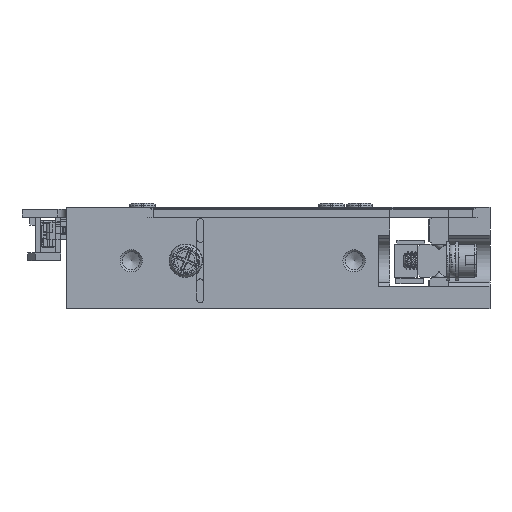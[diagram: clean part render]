
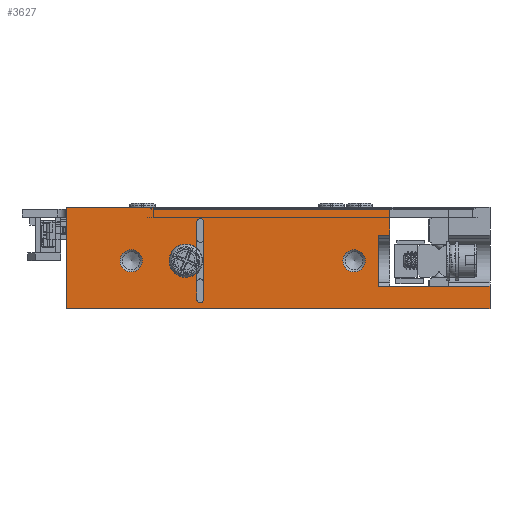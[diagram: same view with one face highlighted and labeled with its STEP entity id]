
A CAD part, left-side view. The second image highlights one B-rep face of the part: STEP entity #3627.
In plain terms, the highlighted planar face has unit normal (-1, 0, 0).
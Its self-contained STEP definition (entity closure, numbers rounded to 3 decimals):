
#995=PLANE('',#56140);
#3247=FACE_BOUND('',#9424,.T.);
#3248=FACE_BOUND('',#9425,.T.);
#3249=FACE_BOUND('',#9426,.T.);
#3250=FACE_BOUND('',#9427,.T.);
#3627=ADVANCED_FACE('',(#3247,#3248,#3249,#3250),#995,.F.);
#9424=EDGE_LOOP('',(#26484));
#9425=EDGE_LOOP('',(#26485));
#9426=EDGE_LOOP('',(#26486,#26487,#26488,#26489,#26490,#26491));
#9427=EDGE_LOOP('',(#26492,#26493,#26494,#26495,#26496,#26497,#26498,#26499,
#26500,#26501,#26502,#26503));
#12376=LINE('',#74307,#19319);
#12377=LINE('',#74312,#19320);
#12378=LINE('',#74316,#19321);
#12379=LINE('',#74319,#19322);
#12380=LINE('',#74322,#19323);
#12381=LINE('',#74324,#19324);
#12382=LINE('',#74326,#19325);
#12383=LINE('',#74328,#19326);
#12384=LINE('',#74330,#19327);
#12385=LINE('',#74332,#19328);
#12386=LINE('',#74334,#19329);
#12387=LINE('',#74336,#19330);
#12388=LINE('',#74338,#19331);
#12389=LINE('',#74340,#19332);
#12390=LINE('',#74342,#19333);
#19319=VECTOR('',#60049,1.);
#19320=VECTOR('',#60052,1.);
#19321=VECTOR('',#60055,1.);
#19322=VECTOR('',#60058,1.);
#19323=VECTOR('',#60059,1.);
#19324=VECTOR('',#60060,1.);
#19325=VECTOR('',#60061,1.);
#19326=VECTOR('',#60062,1.);
#19327=VECTOR('',#60063,1.);
#19328=VECTOR('',#60064,1.);
#19329=VECTOR('',#60065,1.);
#19330=VECTOR('',#60066,1.);
#19331=VECTOR('',#60067,1.);
#19332=VECTOR('',#60068,1.);
#19333=VECTOR('',#60069,1.);
#26484=ORIENTED_EDGE('',*,*,#47348,.T.);
#26485=ORIENTED_EDGE('',*,*,#47349,.T.);
#26486=ORIENTED_EDGE('',*,*,#47350,.F.);
#26487=ORIENTED_EDGE('',*,*,#47351,.T.);
#26488=ORIENTED_EDGE('',*,*,#47352,.F.);
#26489=ORIENTED_EDGE('',*,*,#47353,.F.);
#26490=ORIENTED_EDGE('',*,*,#47354,.F.);
#26491=ORIENTED_EDGE('',*,*,#47355,.F.);
#26492=ORIENTED_EDGE('',*,*,#47356,.F.);
#26493=ORIENTED_EDGE('',*,*,#47357,.T.);
#26494=ORIENTED_EDGE('',*,*,#47358,.F.);
#26495=ORIENTED_EDGE('',*,*,#47359,.F.);
#26496=ORIENTED_EDGE('',*,*,#47360,.T.);
#26497=ORIENTED_EDGE('',*,*,#47361,.T.);
#26498=ORIENTED_EDGE('',*,*,#47362,.T.);
#26499=ORIENTED_EDGE('',*,*,#47363,.T.);
#26500=ORIENTED_EDGE('',*,*,#47364,.T.);
#26501=ORIENTED_EDGE('',*,*,#47365,.F.);
#26502=ORIENTED_EDGE('',*,*,#47366,.T.);
#26503=ORIENTED_EDGE('',*,*,#47367,.T.);
#42078=VERTEX_POINT('',#74304);
#42079=VERTEX_POINT('',#74306);
#42080=VERTEX_POINT('',#74308);
#42081=VERTEX_POINT('',#74309);
#42082=VERTEX_POINT('',#74311);
#42083=VERTEX_POINT('',#74313);
#42084=VERTEX_POINT('',#74315);
#42085=VERTEX_POINT('',#74317);
#42086=VERTEX_POINT('',#74320);
#42087=VERTEX_POINT('',#74321);
#42088=VERTEX_POINT('',#74323);
#42089=VERTEX_POINT('',#74325);
#42090=VERTEX_POINT('',#74327);
#42091=VERTEX_POINT('',#74329);
#42092=VERTEX_POINT('',#74331);
#42093=VERTEX_POINT('',#74333);
#42094=VERTEX_POINT('',#74335);
#42095=VERTEX_POINT('',#74337);
#42096=VERTEX_POINT('',#74339);
#42097=VERTEX_POINT('',#74341);
#47348=EDGE_CURVE('',#42078,#42078,#55159,.T.);
#47349=EDGE_CURVE('',#42079,#42079,#55160,.T.);
#47350=EDGE_CURVE('',#42080,#42081,#12376,.T.);
#47351=EDGE_CURVE('',#42080,#42082,#55161,.T.);
#47352=EDGE_CURVE('',#42083,#42082,#12377,.T.);
#47353=EDGE_CURVE('',#42084,#42083,#55162,.T.);
#47354=EDGE_CURVE('',#42085,#42084,#12378,.T.);
#47355=EDGE_CURVE('',#42081,#42085,#55163,.T.);
#47356=EDGE_CURVE('',#42086,#42087,#12379,.T.);
#47357=EDGE_CURVE('',#42086,#42088,#12380,.T.);
#47358=EDGE_CURVE('',#42089,#42088,#12381,.T.);
#47359=EDGE_CURVE('',#42090,#42089,#12382,.T.);
#47360=EDGE_CURVE('',#42090,#42091,#12383,.T.);
#47361=EDGE_CURVE('',#42091,#42092,#12384,.T.);
#47362=EDGE_CURVE('',#42092,#42093,#12385,.T.);
#47363=EDGE_CURVE('',#42093,#42094,#12386,.T.);
#47364=EDGE_CURVE('',#42094,#42095,#12387,.T.);
#47365=EDGE_CURVE('',#42096,#42095,#12388,.T.);
#47366=EDGE_CURVE('',#42096,#42097,#12389,.T.);
#47367=EDGE_CURVE('',#42097,#42087,#12390,.T.);
#55159=CIRCLE('',#56135,1.);
#55160=CIRCLE('',#56136,1.);
#55161=CIRCLE('',#56137,1.);
#55162=CIRCLE('',#56138,0.325);
#55163=CIRCLE('',#56139,0.325);
#56135=AXIS2_PLACEMENT_3D('',#74303,#60045,#60046);
#56136=AXIS2_PLACEMENT_3D('',#74305,#60047,#60048);
#56137=AXIS2_PLACEMENT_3D('',#74310,#60050,#60051);
#56138=AXIS2_PLACEMENT_3D('',#74314,#60053,#60054);
#56139=AXIS2_PLACEMENT_3D('',#74318,#60056,#60057);
#56140=AXIS2_PLACEMENT_3D('',#74343,#60070,#60071);
#60045=DIRECTION('',(1.,0.,0.));
#60046=DIRECTION('',(0.,1.,0.));
#60047=DIRECTION('',(1.,0.,0.));
#60048=DIRECTION('',(0.,1.,0.));
#60049=DIRECTION('',(0.,0.,-1.));
#60050=DIRECTION('',(1.,0.,0.));
#60051=DIRECTION('',(0.,1.,0.));
#60052=DIRECTION('',(0.,0.,-1.));
#60053=DIRECTION('',(-1.,0.,0.));
#60054=DIRECTION('',(0.,0.,1.));
#60055=DIRECTION('',(0.,0.,1.));
#60056=DIRECTION('',(-1.,0.,0.));
#60057=DIRECTION('',(0.,0.,1.));
#60058=DIRECTION('',(0.,0.,-1.));
#60059=DIRECTION('',(0.,1.,0.));
#60060=DIRECTION('',(0.,0.,1.));
#60061=DIRECTION('',(0.,-1.,0.));
#60062=DIRECTION('',(0.,0.,1.));
#60063=DIRECTION('',(0.,1.,0.));
#60064=DIRECTION('',(0.,0.,1.));
#60065=DIRECTION('',(0.,-1.,0.));
#60066=DIRECTION('',(0.,0.,1.));
#60067=DIRECTION('',(0.,-1.,0.));
#60068=DIRECTION('',(0.,0.,-1.));
#60069=DIRECTION('',(0.,-1.,0.));
#60070=DIRECTION('',(1.,0.,0.));
#60071=DIRECTION('',(0.,1.,0.));
#74303=CARTESIAN_POINT('',(-15.,12.2,4.3));
#74304=CARTESIAN_POINT('',(-15.,13.2,4.3));
#74305=CARTESIAN_POINT('',(-15.,32.2,4.3));
#74306=CARTESIAN_POINT('',(-15.,33.2,4.3));
#74307=CARTESIAN_POINT('',(-15.,26.325,2.35));
#74308=CARTESIAN_POINT('',(-15.,26.325,4.078));
#74309=CARTESIAN_POINT('',(-15.,26.325,0.85));
#74310=CARTESIAN_POINT('',(-15.,27.3,4.3));
#74311=CARTESIAN_POINT('',(-15.,26.325,4.522));
#74312=CARTESIAN_POINT('',(-15.,26.325,2.35));
#74313=CARTESIAN_POINT('',(-15.,26.325,7.75));
#74314=CARTESIAN_POINT('',(-15.,26.,7.75));
#74315=CARTESIAN_POINT('',(-15.,25.675,7.75));
#74316=CARTESIAN_POINT('',(-15.,25.675,0.85));
#74317=CARTESIAN_POINT('',(-15.,25.675,0.85));
#74318=CARTESIAN_POINT('',(-15.,26.,0.85));
#74319=CARTESIAN_POINT('',(-15.,0.,9.1));
#74320=CARTESIAN_POINT('',(-15.,0.,2.009));
#74321=CARTESIAN_POINT('',(-15.,0.,0.));
#74322=CARTESIAN_POINT('',(-15.,3.7,2.009));
#74323=CARTESIAN_POINT('',(-15.,3.7,2.009));
#74324=CARTESIAN_POINT('',(-15.,3.7,2.));
#74325=CARTESIAN_POINT('',(-15.,3.7,2.));
#74326=CARTESIAN_POINT('',(-15.,9.,2.));
#74327=CARTESIAN_POINT('',(-15.,9.,2.));
#74328=CARTESIAN_POINT('',(-15.,9.,2.));
#74329=CARTESIAN_POINT('',(-15.,9.,2.009));
#74330=CARTESIAN_POINT('',(-15.,10.,2.009));
#74331=CARTESIAN_POINT('',(-15.,10.,2.009));
#74332=CARTESIAN_POINT('',(-15.,10.,2.3));
#74333=CARTESIAN_POINT('',(-15.,10.,6.591));
#74334=CARTESIAN_POINT('',(-15.,9.,6.591));
#74335=CARTESIAN_POINT('',(-15.,9.,6.591));
#74336=CARTESIAN_POINT('',(-15.,9.,2.));
#74337=CARTESIAN_POINT('',(-15.,9.,9.1));
#74338=CARTESIAN_POINT('',(-15.,38.,9.1));
#74339=CARTESIAN_POINT('',(-15.,38.,9.1));
#74340=CARTESIAN_POINT('',(-15.,38.,9.1));
#74341=CARTESIAN_POINT('',(-15.,38.,0.));
#74342=CARTESIAN_POINT('',(-15.,38.,0.));
#74343=CARTESIAN_POINT('',(-15.,38.,9.1));
